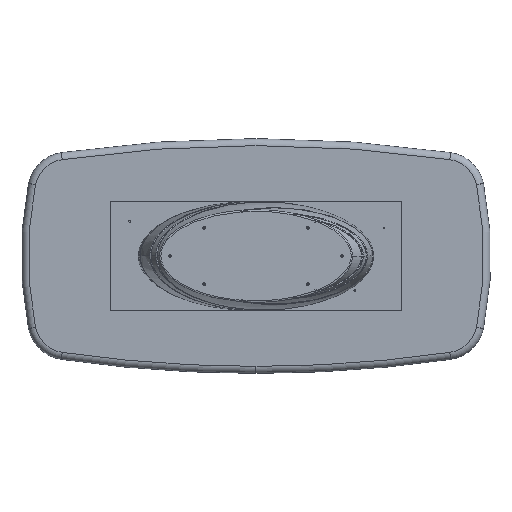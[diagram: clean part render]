
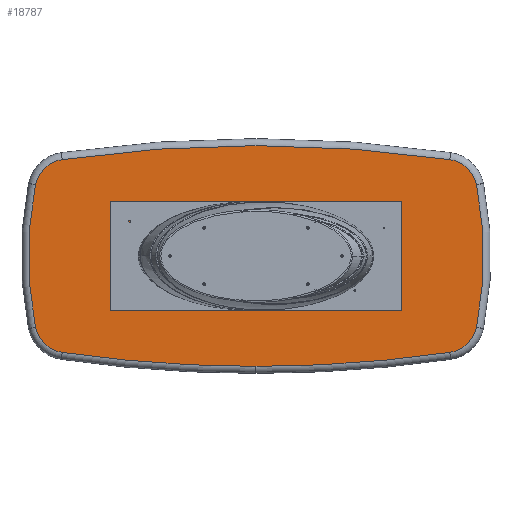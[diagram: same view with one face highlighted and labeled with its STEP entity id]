
A CAD part, front view. The second image highlights one B-rep face of the part: STEP entity #18787.
In plain terms, the highlighted planar face has unit normal (0, -1, 0).
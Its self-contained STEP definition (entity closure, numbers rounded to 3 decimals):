
#305 = AXIS2_PLACEMENT_3D ( 'NONE', #32316, #35756, #17861 ) ;
#899 = FACE_OUTER_BOUND ( 'NONE', #2921, .T. ) ;
#1489 = DIRECTION ( 'NONE',  ( 0., -1., 0. ) ) ;
#2022 = CARTESIAN_POINT ( 'NONE',  ( -966.467, 40., -330.452 ) ) ;
#2734 = VERTEX_POINT ( 'NONE', #22502 ) ;
#2921 = EDGE_LOOP ( 'NONE', ( #24089, #22006, #26696, #33126, #21651, #6666, #20757, #25131, #11619 ) ) ;
#2936 = DIRECTION ( 'NONE',  ( 0., 0., -1. ) ) ;
#3805 = DIRECTION ( 'NONE',  ( 0., 0., -1. ) ) ;
#4144 = CARTESIAN_POINT ( 'NONE',  ( 1127.124, 40., 363.397 ) ) ;
#4469 = EDGE_CURVE ( 'NONE', #32198, #30897, #35542, .T. ) ;
#4520 = AXIS2_PLACEMENT_3D ( 'NONE', #22429, #1489, #7947 ) ;
#5109 = CIRCLE ( 'NONE', #9968, 164. ) ;
#6532 = CARTESIAN_POINT ( 'NONE',  ( 0., 40., -6350. ) ) ;
#6666 = ORIENTED_EDGE ( 'NONE', *, *, #4469, .T. ) ;
#6777 = AXIS2_PLACEMENT_3D ( 'NONE', #31978, #31791, #18082 ) ;
#7947 = DIRECTION ( 'NONE',  ( 0., 0., -1. ) ) ;
#9152 = VERTEX_POINT ( 'NONE', #30648 ) ;
#9513 = CARTESIAN_POINT ( 'NONE',  ( 989.949, 40., -492.762 ) ) ;
#9776 = AXIS2_PLACEMENT_3D ( 'NONE', #14125, #29020, #22907 ) ;
#9968 = AXIS2_PLACEMENT_3D ( 'NONE', #2022, #21834, #16499 ) ;
#10439 = EDGE_CURVE ( 'NONE', #13803, #2734, #35654, .T. ) ;
#10607 = AXIS2_PLACEMENT_3D ( 'NONE', #6532, #23292, #29214 ) ;
#10966 = CARTESIAN_POINT ( 'NONE',  ( 645., 40., 0. ) ) ;
#11619 = ORIENTED_EDGE ( 'NONE', *, *, #10439, .T. ) ;
#11670 = DIRECTION ( 'NONE',  ( 0., -1., 0. ) ) ;
#11991 = DIRECTION ( 'NONE',  ( 0., -1., 0. ) ) ;
#12949 = VERTEX_POINT ( 'NONE', #25311 ) ;
#13009 = CIRCLE ( 'NONE', #10607, 6914. ) ;
#13803 = VERTEX_POINT ( 'NONE', #21853 ) ;
#14125 = CARTESIAN_POINT ( 'NONE',  ( -645., 40., 0. ) ) ;
#15055 = AXIS2_PLACEMENT_3D ( 'NONE', #33877, #30085, #24357 ) ;
#15878 = CIRCLE ( 'NONE', #9776, 1809. ) ;
#16499 = DIRECTION ( 'NONE',  ( 0., 0., -1. ) ) ;
#17170 = EDGE_CURVE ( 'NONE', #9152, #12949, #37373, .T. ) ;
#17431 = CARTESIAN_POINT ( 'NONE',  ( 0., 40., 6350. ) ) ;
#17617 = DIRECTION ( 'NONE',  ( 0., -1., 0. ) ) ;
#17861 = DIRECTION ( 'NONE',  ( 0., 0., -1. ) ) ;
#18082 = DIRECTION ( 'NONE',  ( 0., 0., -1. ) ) ;
#18787 = ADVANCED_FACE ( 'NONE', ( #899 ), #23934, .T. ) ;
#19214 = CARTESIAN_POINT ( 'NONE',  ( 1127.124, 40., -363.397 ) ) ;
#20757 = ORIENTED_EDGE ( 'NONE', *, *, #35903, .T. ) ;
#21139 = CARTESIAN_POINT ( 'NONE',  ( 966.467, 40., 330.452 ) ) ;
#21439 = EDGE_CURVE ( 'NONE', #36381, #36867, #26031, .T. ) ;
#21651 = ORIENTED_EDGE ( 'NONE', *, *, #26587, .T. ) ;
#21834 = DIRECTION ( 'NONE',  ( 0., -1., 0. ) ) ;
#21853 = CARTESIAN_POINT ( 'NONE',  ( -1127.124, 40., 363.397 ) ) ;
#22006 = ORIENTED_EDGE ( 'NONE', *, *, #17170, .T. ) ;
#22429 = CARTESIAN_POINT ( 'NONE',  ( 0., 40., 6350. ) ) ;
#22502 = CARTESIAN_POINT ( 'NONE',  ( -1127.124, 40., -363.397 ) ) ;
#22617 = CIRCLE ( 'NONE', #35412, 6914. ) ;
#22739 = CARTESIAN_POINT ( 'NONE',  ( -989.949, 40., 492.762 ) ) ;
#22907 = DIRECTION ( 'NONE',  ( 0., 0., -1. ) ) ;
#23292 = DIRECTION ( 'NONE',  ( 0., -1., 0. ) ) ;
#23350 = AXIS2_PLACEMENT_3D ( 'NONE', #21139, #11991, #3805 ) ;
#23934 = PLANE ( 'NONE',  #305 ) ;
#24089 = ORIENTED_EDGE ( 'NONE', *, *, #34748, .T. ) ;
#24357 = DIRECTION ( 'NONE',  ( 0., 0., -1. ) ) ;
#25131 = ORIENTED_EDGE ( 'NONE', *, *, #26856, .T. ) ;
#25311 = CARTESIAN_POINT ( 'NONE',  ( 0., 40., -564. ) ) ;
#26031 = CIRCLE ( 'NONE', #15055, 164. ) ;
#26359 = DIRECTION ( 'NONE',  ( 0., 0., -1. ) ) ;
#26587 = EDGE_CURVE ( 'NONE', #36867, #32198, #15878, .T. ) ;
#26696 = ORIENTED_EDGE ( 'NONE', *, *, #27532, .T. ) ;
#26856 = EDGE_CURVE ( 'NONE', #32795, #13803, #28675, .T. ) ;
#27532 = EDGE_CURVE ( 'NONE', #12949, #36381, #22617, .T. ) ;
#28052 = CARTESIAN_POINT ( 'NONE',  ( 989.949, 40., 492.762 ) ) ;
#28675 = CIRCLE ( 'NONE', #6777, 164. ) ;
#29020 = DIRECTION ( 'NONE',  ( 0., -1., 0. ) ) ;
#29214 = DIRECTION ( 'NONE',  ( 0., 0., -1. ) ) ;
#29567 = AXIS2_PLACEMENT_3D ( 'NONE', #10966, #11670, #26359 ) ;
#30085 = DIRECTION ( 'NONE',  ( 0., -1., 0. ) ) ;
#30648 = CARTESIAN_POINT ( 'NONE',  ( -989.949, 40., -492.762 ) ) ;
#30897 = VERTEX_POINT ( 'NONE', #28052 ) ;
#31791 = DIRECTION ( 'NONE',  ( 0., -1., 0. ) ) ;
#31978 = CARTESIAN_POINT ( 'NONE',  ( -966.467, 40., 330.452 ) ) ;
#32198 = VERTEX_POINT ( 'NONE', #4144 ) ;
#32316 = CARTESIAN_POINT ( 'NONE',  ( 160.734, 40., -165.226 ) ) ;
#32795 = VERTEX_POINT ( 'NONE', #22739 ) ;
#33126 = ORIENTED_EDGE ( 'NONE', *, *, #21439, .T. ) ;
#33877 = CARTESIAN_POINT ( 'NONE',  ( 966.467, 40., -330.452 ) ) ;
#34748 = EDGE_CURVE ( 'NONE', #2734, #9152, #5109, .T. ) ;
#35412 = AXIS2_PLACEMENT_3D ( 'NONE', #17431, #17617, #2936 ) ;
#35542 = CIRCLE ( 'NONE', #23350, 164. ) ;
#35654 = CIRCLE ( 'NONE', #29567, 1809. ) ;
#35756 = DIRECTION ( 'NONE',  ( 0., -1., 0. ) ) ;
#35903 = EDGE_CURVE ( 'NONE', #30897, #32795, #13009, .T. ) ;
#36381 = VERTEX_POINT ( 'NONE', #9513 ) ;
#36867 = VERTEX_POINT ( 'NONE', #19214 ) ;
#37373 = CIRCLE ( 'NONE', #4520, 6914. ) ;
